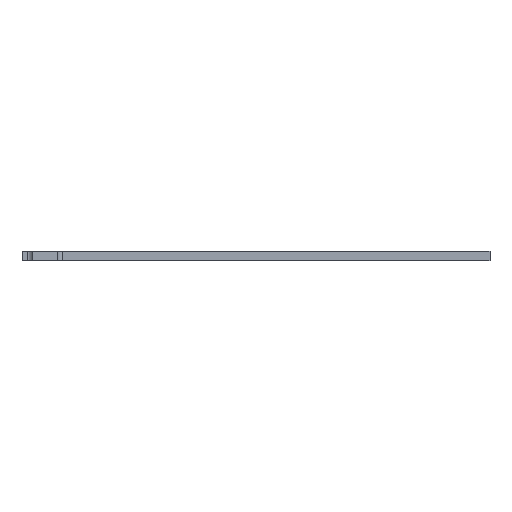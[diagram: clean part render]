
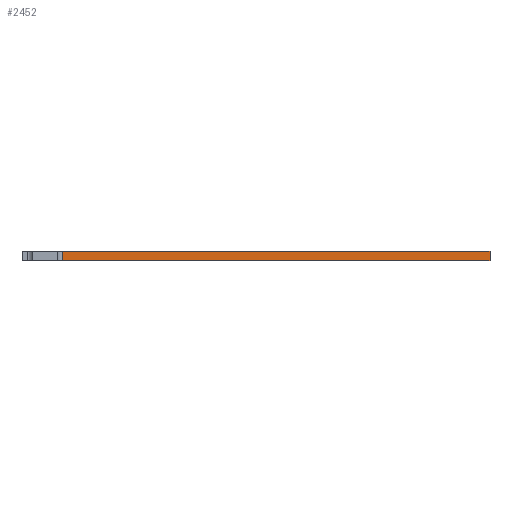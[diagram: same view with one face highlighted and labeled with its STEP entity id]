
A CAD part, front view. The second image highlights one B-rep face of the part: STEP entity #2452.
In plain terms, the highlighted planar face has unit normal (0, -1, 0).
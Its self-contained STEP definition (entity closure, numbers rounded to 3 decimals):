
#26=DIRECTION('',(-1.,0.,0.));
#27=VECTOR('',#26,88.4);
#28=CARTESIAN_POINT('',(48.4,-46.2,0.));
#29=LINE('',#28,#27);
#430=DIRECTION('',(-1.,0.,0.));
#431=VECTOR('',#430,88.4);
#432=CARTESIAN_POINT('',(48.4,-46.2,2.));
#433=LINE('',#432,#431);
#804=DIRECTION('',(0.,0.,-1.));
#805=VECTOR('',#804,2.);
#806=CARTESIAN_POINT('',(-40.,-46.2,2.));
#807=LINE('',#806,#805);
#812=DIRECTION('',(0.,0.,1.));
#813=VECTOR('',#812,2.);
#814=CARTESIAN_POINT('',(48.4,-46.2,0.));
#815=LINE('',#814,#813);
#1442=CARTESIAN_POINT('',(48.4,-46.2,0.));
#1443=CARTESIAN_POINT('',(48.4,-46.2,2.));
#1444=VERTEX_POINT('',#1442);
#1445=VERTEX_POINT('',#1443);
#1518=CARTESIAN_POINT('',(-40.,-46.2,2.));
#1519=CARTESIAN_POINT('',(-40.,-46.2,0.));
#1520=VERTEX_POINT('',#1518);
#1521=VERTEX_POINT('',#1519);
#2440=CARTESIAN_POINT('',(48.4,-46.2,2.));
#2441=DIRECTION('',(0.,1.,0.));
#2442=DIRECTION('',(-1.,0.,0.));
#2443=AXIS2_PLACEMENT_3D('',#2440,#2441,#2442);
#2444=PLANE('',#2443);
#2445=ORIENTED_EDGE('',*,*,#2434,.F.);
#2446=ORIENTED_EDGE('',*,*,#2140,.F.);
#2448=ORIENTED_EDGE('',*,*,#2447,.F.);
#2449=ORIENTED_EDGE('',*,*,#1857,.T.);
#2450=EDGE_LOOP('',(#2445,#2446,#2448,#2449));
#2451=FACE_OUTER_BOUND('',#2450,.F.);
#2452=ADVANCED_FACE('',(#2451),#2444,.F.);
#1857=EDGE_CURVE('',#1444,#1521,#29,.T.);
#2140=EDGE_CURVE('',#1445,#1520,#433,.T.);
#2434=EDGE_CURVE('',#1520,#1521,#807,.T.);
#2447=EDGE_CURVE('',#1444,#1445,#815,.T.);
